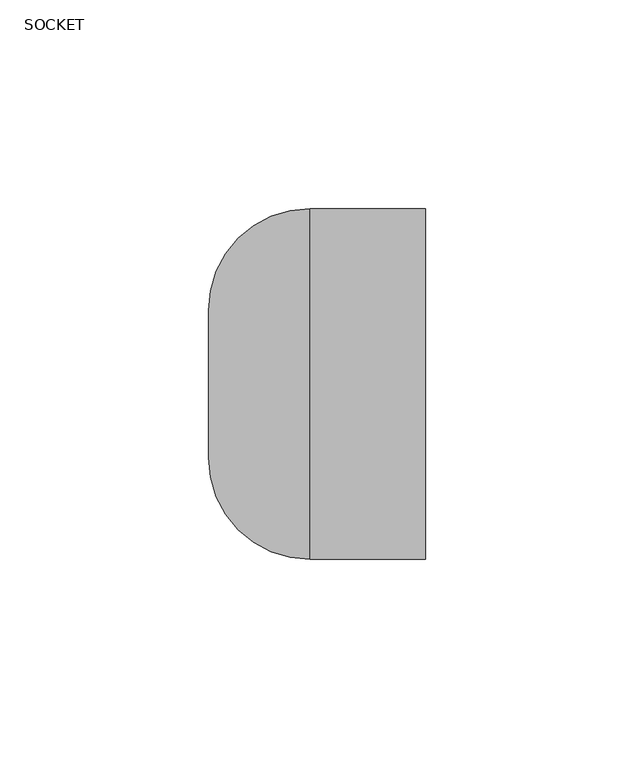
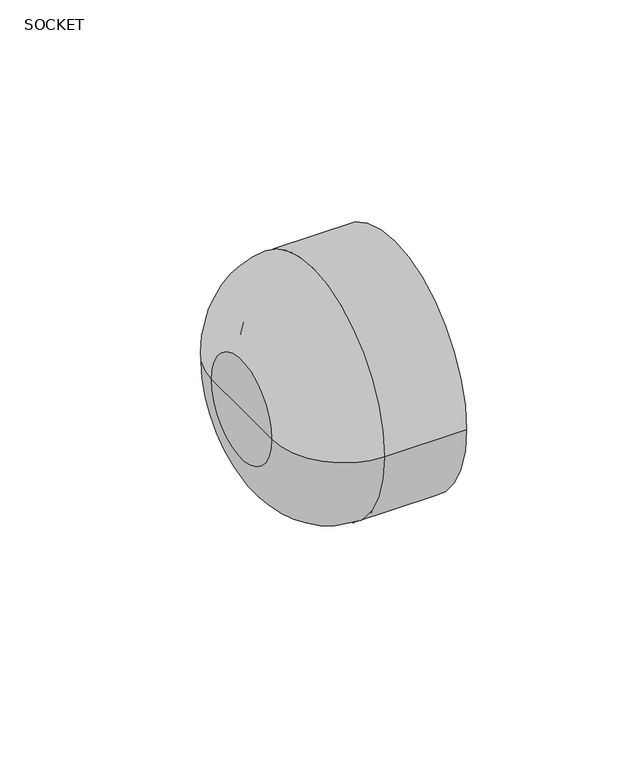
"""IFC4 building model written with IfcOpenShell, lengths in millimetres: pipe fitting geometry, Aquatherm - End Cap Socket : SOCKET."""

from ifc_helpers import new_model, si_unit, point, frame, origin, place, context, project, spatial, polyline, circle_curve, ellipse_curve, trimmed, source, transform, mapped, element, save
from ifc_brep_helpers import plane_surface, cylinder_surface, revolved_surface, advanced_brep


def socket_48546adb(model_context):
    return source(origin(), model_context, "Body", "AdvancedBrep", [
        advanced_brep(
        [(-52.07, 0.0, 0.0), (-52.07, 17.653, 0.0), (-52.07, -17.653, 0.0), (-35.3725988, -31.496, 0.0), (-35.3725988, 31.496, 0.0), (-35.3725988, 27.7779988, 0.0), (-35.3725988, -27.7779988, 0.0), (0.0, -31.496, 0.0), (0.0, 31.496, 0.0), (0.0, -42.037, 0.0), (0.0, 42.037, 0.0), (-27.686, -42.037, 0.0), (-27.686, 42.037, 0.0), (-37.8109988, -25.3395988, 0.0), (-37.8109988, 25.3395988, 0.0), (-37.8109988, 0.0, 0.0)],
        [
            (0, 1),
            (1, 2, circle_curve(frame((-52.07, 0.0, 0.0), z_axis=(-1.0, 0.0, 0.0), x_axis=(0.0, 1.0, 0.0)), 17.653)),
            (2, 0),
            (2, 1, circle_curve(frame((-52.07, 0.0, 0.0), z_axis=(-1.0, 0.0, 0.0), x_axis=(0.0, 1.0, 0.0)), 17.653)),
            (3, 4, circle_curve(frame((-35.3725988, 0.0, 0.0), z_axis=(1.0, 0.0, 0.0), x_axis=(0.0, 1.0, 0.0)), 31.496)),
            (4, 5),
            (5, 6, circle_curve(frame((-35.3725988, 0.0, 0.0), z_axis=(-1.0, 0.0, 0.0), x_axis=(0.0, 1.0, 0.0)), 27.7779988)),
            (6, 3),
            (4, 3, circle_curve(frame((-35.3725988, 0.0, 0.0), z_axis=(1.0, 0.0, 0.0), x_axis=(0.0, 1.0, 0.0)), 31.496)),
            (6, 5, circle_curve(frame((-35.3725988, 0.0, 0.0), z_axis=(-1.0, 0.0, 0.0), x_axis=(0.0, 1.0, 0.0)), 27.7779988)),
            (7, 8, circle_curve(frame((0.0, 0.0, 0.0), z_axis=(1.0, 0.0, 0.0), x_axis=(0.0, 1.0, 0.0)), 31.496)),
            (8, 4),
            (3, 7),
            (8, 7, circle_curve(frame((0.0, 0.0, 0.0), z_axis=(1.0, 0.0, 0.0), x_axis=(0.0, 1.0, 0.0)), 31.496)),
            (9, 10, circle_curve(frame((0.0, 0.0, 0.0), z_axis=(1.0, 0.0, 0.0), x_axis=(0.0, 1.0, 0.0)), 42.037)),
            (10, 8),
            (7, 9),
            (10, 9, circle_curve(frame((0.0, 0.0, 0.0), z_axis=(1.0, 0.0, 0.0), x_axis=(0.0, 1.0, 0.0)), 42.037)),
            (11, 12, circle_curve(frame((-27.686, 0.0, 0.0), z_axis=(1.0, 0.0, 0.0), x_axis=(0.0, 1.0, 0.0)), 42.037)),
            (12, 10),
            (9, 11),
            (12, 11, circle_curve(frame((-27.686, 0.0, 0.0), z_axis=(1.0, 0.0, 0.0), x_axis=(0.0, 1.0, 0.0)), 42.037)),
            (1, 12, circle_curve(frame((-27.686, 17.653, 0.0), z_axis=(0.0, 0.0, -1.0), x_axis=(1.0, 0.0, 0.0)), 24.384)),
            (11, 2, circle_curve(frame((-27.686, -17.653, 0.0), z_axis=(0.0, 0.0, -1.0), x_axis=(1.0, 0.0, 0.0)), 24.384)),
            (13, 14, circle_curve(frame((-37.8109988, 0.0, 0.0), z_axis=(1.0, 0.0, 0.0), x_axis=(0.0, 1.0, 0.0)), 25.3395988)),
            (14, 15),
            (15, 13),
            (14, 13, circle_curve(frame((-37.8109988, 0.0, 0.0), z_axis=(1.0, 0.0, 0.0), x_axis=(0.0, 1.0, 0.0)), 25.3395988)),
            (5, 14, circle_curve(frame((-35.3725988, 25.3395988, 0.0), z_axis=(0.0, 0.0, 1.0), x_axis=(1.0, 0.0, 0.0)), 2.4384)),
            (13, 6, circle_curve(frame((-35.3725988, -25.3395988, 0.0), z_axis=(0.0, 0.0, 1.0), x_axis=(1.0, 0.0, 0.0)), 2.4384)),
        ],
        [
            plane_surface(frame((-52.07, 0.0, 0.0), z_axis=(-1.0, 0.0, 0.0), x_axis=(0.0, 1.0, 0.0))),
            plane_surface(frame((-35.3725988, 0.0, 0.0), z_axis=(1.0, 0.0, 0.0), x_axis=(0.0, 1.0, 0.0))),
            revolved_surface(polyline([(-35.3725988, 31.496, 0.0), (0.0, 31.496, 0.0)]), (-37.8109988, 0.0, 0.0), (-1.0, 0.0, 0.0)),
            plane_surface(frame((0.0, 0.0, 0.0), z_axis=(1.0, 0.0, 0.0), x_axis=(0.0, 1.0, 0.0))),
            cylinder_surface(frame((-37.8109988, 0.0, 0.0), z_axis=(-1.0, 0.0, 0.0), x_axis=(0.0, 1.0, 0.0)), 42.037),
            revolved_surface(trimmed(ellipse_curve(frame((-27.686, 17.653, 0.0), z_axis=(0.0, 0.0, 1.0), x_axis=(1.0, 0.0, 0.0)), 24.384, 24.384), [point((-27.686, 42.037, 0.0))], [point((-52.07, 17.653, 0.0))], True, "CARTESIAN"), (-37.8109988, 0.0, 0.0), (-1.0, 0.0, 0.0)),
            plane_surface(frame((-37.8109988, 0.0, 0.0), z_axis=(1.0, 0.0, 0.0), x_axis=(0.0, 1.0, 0.0))),
            revolved_surface(trimmed(ellipse_curve(frame((-35.3725988, 25.3395988, 0.0), z_axis=(0.0, 0.0, -1.0), x_axis=(1.0, 0.0, 0.0)), 2.4384, 2.4384), [point((-37.8109988, 25.3395988, 0.0))], [point((-35.3725988, 27.7779988, 0.0))], True, "CARTESIAN"), (-37.8109988, 0.0, 0.0), (-1.0, 0.0, 0.0)),
        ],
        [
            (0, [[1, 2, 3]]),
            (0, [[-3, 4, -1]]),
            (1, [[5, 6, 7, 8]]),
            (1, [[9, -8, 10, -6]]),
            (2, [[11, 12, -5, 13]]),
            (2, [[14, -13, -9, -12]]),
            (3, [[15, 16, -11, 17]]),
            (3, [[18, -17, -14, -16]]),
            (4, [[19, 20, -15, 21]]),
            (4, [[22, -21, -18, -20]]),
            (5, [[-2, 23, -19, 24]]),
            (5, [[-4, -24, -22, -23]]),
            (6, [[25, 26, 27]]),
            (6, [[28, -27, -26]]),
            (7, [[-7, 29, -25, 30]]),
            (7, [[-10, -30, -28, -29]]),
        ],
    ),
    ])


if __name__ == "__main__":
    model = new_model("IFC4")
    model_context = context("Model", 3, world=origin())
    ifc_project = project(units=[si_unit("LENGTHUNIT", "METRE", prefix="MILLI")], contexts=[model_context])
    site = spatial("IfcSite", under=ifc_project)
    building = spatial("IfcBuilding", under=site)
    placement = place(None, origin())
    ifc_socket_shape = socket_48546adb(model_context)
    element("IfcPipeFitting", 1, ObjectType="Aquatherm - End Cap Socket : SOCKET", at=placement, inside=building, context=model_context, shape_type="MappedRepresentation", body=[
        mapped(ifc_socket_shape, transform((0.0, 0.0, 0.0), x_axis=(1.0, 0.0, 0.0), y_axis=(0.0, 1.0, 0.0), z_axis=(0.0, 0.0, 1.0))),
    ])
    save(model, "model.ifc")
